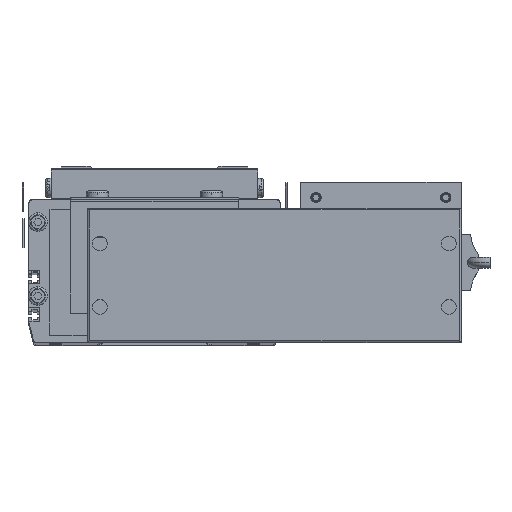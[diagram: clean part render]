
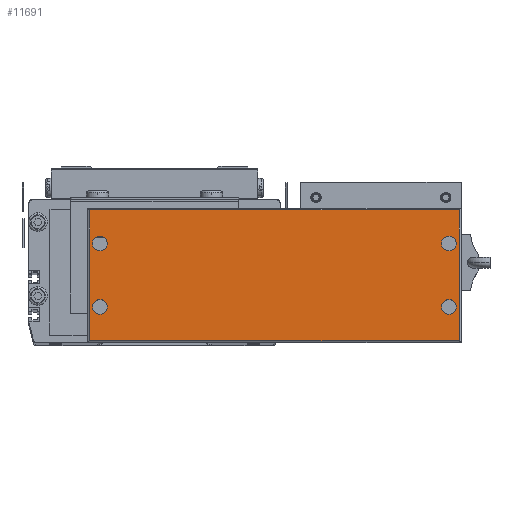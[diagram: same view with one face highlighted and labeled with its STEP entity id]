
A CAD part, top view. The second image highlights one B-rep face of the part: STEP entity #11691.
In plain terms, the highlighted planar face has unit normal (0, 0, 1).
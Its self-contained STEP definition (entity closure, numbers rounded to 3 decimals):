
#10990 = VERTEX_POINT ( 'NONE', #107102 ) ;
#10995 = VERTEX_POINT ( 'NONE', #107030 ) ;
#10997 = VERTEX_POINT ( 'NONE', #107106 ) ;
#11025 = VERTEX_POINT ( 'NONE', #106987 ) ;
#11039 = VERTEX_POINT ( 'NONE', #106997 ) ;
#11055 = EDGE_CURVE ( 'NONE', #11025, #11039, #106972, .T. ) ;
#11109 = VERTEX_POINT ( 'NONE', #52155 ) ;
#11114 = VERTEX_POINT ( 'NONE', #51824 ) ;
#11136 = EDGE_CURVE ( 'NONE', #11109, #11140, #51906, .T. ) ;
#11140 = VERTEX_POINT ( 'NONE', #51965 ) ;
#11203 = EDGE_CURVE ( 'NONE', #11114, #10995, #51794, .T. ) ;
#11223 = EDGE_CURVE ( 'NONE', #10997, #10990, #39873, .T. ) ;
#11672 = EDGE_CURVE ( 'NONE', #11140, #11109, #41153, .T. ) ;
#11674 = VERTEX_POINT ( 'NONE', #41285 ) ;
#11675 = ORIENTED_EDGE ( 'NONE', *, *, #11672, .F. ) ;
#11676 = ORIENTED_EDGE ( 'NONE', *, *, #11750, .F. ) ;
#11677 = ORIENTED_EDGE ( 'NONE', *, *, #11908, .F. ) ;
#11680 = ORIENTED_EDGE ( 'NONE', *, *, #11931, .T. ) ;
#11681 = EDGE_CURVE ( 'NONE', #11683, #11920, #41150, .T. ) ;
#11683 = VERTEX_POINT ( 'NONE', #41260 ) ;
#11684 = ORIENTED_EDGE ( 'NONE', *, *, #11686, .T. ) ;
#11685 = ORIENTED_EDGE ( 'NONE', *, *, #11681, .T. ) ;
#11686 = EDGE_CURVE ( 'NONE', #11920, #11674, #41336, .T. ) ;
#11691 = ADVANCED_FACE ( 'NONE', ( #41328, #41255, #41318, #41320, #41283 ), #41253, .T. ) ;
#11692 = EDGE_LOOP ( 'NONE', ( #11904, #11918 ) ) ;
#11750 = EDGE_CURVE ( 'NONE', #10990, #10997, #41785, .T. ) ;
#11903 = EDGE_LOOP ( 'NONE', ( #11921, #11680, #11685, #11684 ) ) ;
#11904 = ORIENTED_EDGE ( 'NONE', *, *, #11919, .F. ) ;
#11908 = EDGE_CURVE ( 'NONE', #10995, #11114, #41845, .T. ) ;
#11909 = EDGE_LOOP ( 'NONE', ( #11677, #11910 ) ) ;
#11910 = ORIENTED_EDGE ( 'NONE', *, *, #11203, .F. ) ;
#11917 = EDGE_LOOP ( 'NONE', ( #11675, #11934 ) ) ;
#11918 = ORIENTED_EDGE ( 'NONE', *, *, #11055, .F. ) ;
#11919 = EDGE_CURVE ( 'NONE', #11039, #11025, #41957, .T. ) ;
#11920 = VERTEX_POINT ( 'NONE', #41963 ) ;
#11921 = ORIENTED_EDGE ( 'NONE', *, *, #11933, .T. ) ;
#11931 = EDGE_CURVE ( 'NONE', #11936, #11683, #42234, .T. ) ;
#11932 = ORIENTED_EDGE ( 'NONE', *, *, #11223, .F. ) ;
#11933 = EDGE_CURVE ( 'NONE', #11674, #11936, #42221, .T. ) ;
#11934 = ORIENTED_EDGE ( 'NONE', *, *, #11136, .F. ) ;
#11935 = EDGE_LOOP ( 'NONE', ( #11676, #11932 ) ) ;
#11936 = VERTEX_POINT ( 'NONE', #42138 ) ;
#39782 = DIRECTION ( 'NONE',  ( 1., 0., 0. ) ) ;
#39785 = DIRECTION ( 'NONE',  ( 0., 0., 1. ) ) ;
#39871 = CARTESIAN_POINT ( 'NONE',  ( 157.75, 53., 44. ) ) ;
#39872 = AXIS2_PLACEMENT_3D ( 'NONE', #39871, #39785, #39782 ) ;
#39873 = CIRCLE ( 'NONE', #39872, 4. ) ;
#41101 = CARTESIAN_POINT ( 'NONE',  ( 157.75, 19., 44. ) ) ;
#41149 = CARTESIAN_POINT ( 'NONE',  ( -35.75, 71., 44. ) ) ;
#41150 = LINE ( 'NONE', #41149, #41332 ) ;
#41153 = CIRCLE ( 'NONE', #41162, 4. ) ;
#41162 = AXIS2_PLACEMENT_3D ( 'NONE', #41101, #41266, #41265 ) ;
#41253 = PLANE ( 'NONE',  #41325 ) ;
#41255 = FACE_BOUND ( 'NONE', #11909, .T. ) ;
#41260 = CARTESIAN_POINT ( 'NONE',  ( 163.25, 71., 44. ) ) ;
#41262 = DIRECTION ( 'NONE',  ( 0., 0., 1. ) ) ;
#41265 = DIRECTION ( 'NONE',  ( 1., 0., 0. ) ) ;
#41266 = DIRECTION ( 'NONE',  ( 0., 0., 1. ) ) ;
#41283 = FACE_OUTER_BOUND ( 'NONE', #11903, .T. ) ;
#41285 = CARTESIAN_POINT ( 'NONE',  ( -34.75, 1., 44. ) ) ;
#41318 = FACE_BOUND ( 'NONE', #11917, .T. ) ;
#41319 = DIRECTION ( 'NONE',  ( 1., 0., 0. ) ) ;
#41320 = FACE_BOUND ( 'NONE', #11935, .T. ) ;
#41323 = DIRECTION ( 'NONE',  ( 0., -1., 0. ) ) ;
#41325 = AXIS2_PLACEMENT_3D ( 'NONE', #41327, #41262, #41319 ) ;
#41327 = CARTESIAN_POINT ( 'NONE',  ( -35.75, 0., 44. ) ) ;
#41328 = FACE_BOUND ( 'NONE', #11692, .T. ) ;
#41330 = DIRECTION ( 'NONE',  ( -1., 0., 0. ) ) ;
#41332 = VECTOR ( 'NONE', #41330, 1000. ) ;
#41334 = VECTOR ( 'NONE', #41323, 1000. ) ;
#41335 = CARTESIAN_POINT ( 'NONE',  ( -34.75, 0., 44. ) ) ;
#41336 = LINE ( 'NONE', #41335, #41334 ) ;
#41664 = DIRECTION ( 'NONE',  ( 1., 0., 0. ) ) ;
#41666 = DIRECTION ( 'NONE',  ( 0., 0., 1. ) ) ;
#41667 = CARTESIAN_POINT ( 'NONE',  ( 157.75, 53., 44. ) ) ;
#41782 = AXIS2_PLACEMENT_3D ( 'NONE', #41667, #41666, #41664 ) ;
#41785 = CIRCLE ( 'NONE', #41782, 4. ) ;
#41826 = DIRECTION ( 'NONE',  ( 1., 0., 0. ) ) ;
#41845 = CIRCLE ( 'NONE', #42200, 4. ) ;
#41848 = DIRECTION ( 'NONE',  ( 0., 0., 1. ) ) ;
#41957 = CIRCLE ( 'NONE', #42152, 4. ) ;
#41963 = CARTESIAN_POINT ( 'NONE',  ( -34.75, 71., 44. ) ) ;
#42138 = CARTESIAN_POINT ( 'NONE',  ( 163.25, 1., 44. ) ) ;
#42149 = DIRECTION ( 'NONE',  ( 1., 0., 0. ) ) ;
#42150 = DIRECTION ( 'NONE',  ( 0., 0., 1. ) ) ;
#42151 = CARTESIAN_POINT ( 'NONE',  ( -29.25, 53., 44. ) ) ;
#42152 = AXIS2_PLACEMENT_3D ( 'NONE', #42151, #42150, #42149 ) ;
#42196 = CARTESIAN_POINT ( 'NONE',  ( -29.25, 19., 44. ) ) ;
#42200 = AXIS2_PLACEMENT_3D ( 'NONE', #42196, #41848, #41826 ) ;
#42214 = DIRECTION ( 'NONE',  ( 1., 0., 0. ) ) ;
#42216 = VECTOR ( 'NONE', #42214, 1000. ) ;
#42218 = CARTESIAN_POINT ( 'NONE',  ( 164.25, 1., 44. ) ) ;
#42221 = LINE ( 'NONE', #42218, #42216 ) ;
#42222 = DIRECTION ( 'NONE',  ( 0., 1., 0. ) ) ;
#42224 = VECTOR ( 'NONE', #42222, 1000. ) ;
#42234 = LINE ( 'NONE', #42239, #42224 ) ;
#42239 = CARTESIAN_POINT ( 'NONE',  ( 163.25, 72., 44. ) ) ;
#51791 = DIRECTION ( 'NONE',  ( 1., 0., 0. ) ) ;
#51792 = DIRECTION ( 'NONE',  ( 0., 0., 1. ) ) ;
#51793 = AXIS2_PLACEMENT_3D ( 'NONE', #52124, #51792, #51791 ) ;
#51794 = CIRCLE ( 'NONE', #51793, 4. ) ;
#51824 = CARTESIAN_POINT ( 'NONE',  ( -33.25, 19., 44. ) ) ;
#51906 = CIRCLE ( 'NONE', #51947, 4. ) ;
#51910 = DIRECTION ( 'NONE',  ( 0., 0., 1. ) ) ;
#51939 = CARTESIAN_POINT ( 'NONE',  ( 157.75, 19., 44. ) ) ;
#51947 = AXIS2_PLACEMENT_3D ( 'NONE', #51939, #51910, #51967 ) ;
#51965 = CARTESIAN_POINT ( 'NONE',  ( 161.75, 19., 44. ) ) ;
#51967 = DIRECTION ( 'NONE',  ( 1., 0., 0. ) ) ;
#52124 = CARTESIAN_POINT ( 'NONE',  ( -29.25, 19., 44. ) ) ;
#52155 = CARTESIAN_POINT ( 'NONE',  ( 153.75, 19., 44. ) ) ;
#106972 = CIRCLE ( 'NONE', #107014, 4. ) ;
#106987 = CARTESIAN_POINT ( 'NONE',  ( -33.25, 53., 44. ) ) ;
#106997 = CARTESIAN_POINT ( 'NONE',  ( -25.25, 53., 44. ) ) ;
#107003 = CARTESIAN_POINT ( 'NONE',  ( -29.25, 53., 44. ) ) ;
#107012 = DIRECTION ( 'NONE',  ( 1., 0., 0. ) ) ;
#107013 = DIRECTION ( 'NONE',  ( 0., 0., 1. ) ) ;
#107014 = AXIS2_PLACEMENT_3D ( 'NONE', #107003, #107013, #107012 ) ;
#107030 = CARTESIAN_POINT ( 'NONE',  ( -25.25, 19., 44. ) ) ;
#107102 = CARTESIAN_POINT ( 'NONE',  ( 161.75, 53., 44. ) ) ;
#107106 = CARTESIAN_POINT ( 'NONE',  ( 153.75, 53., 44. ) ) ;
